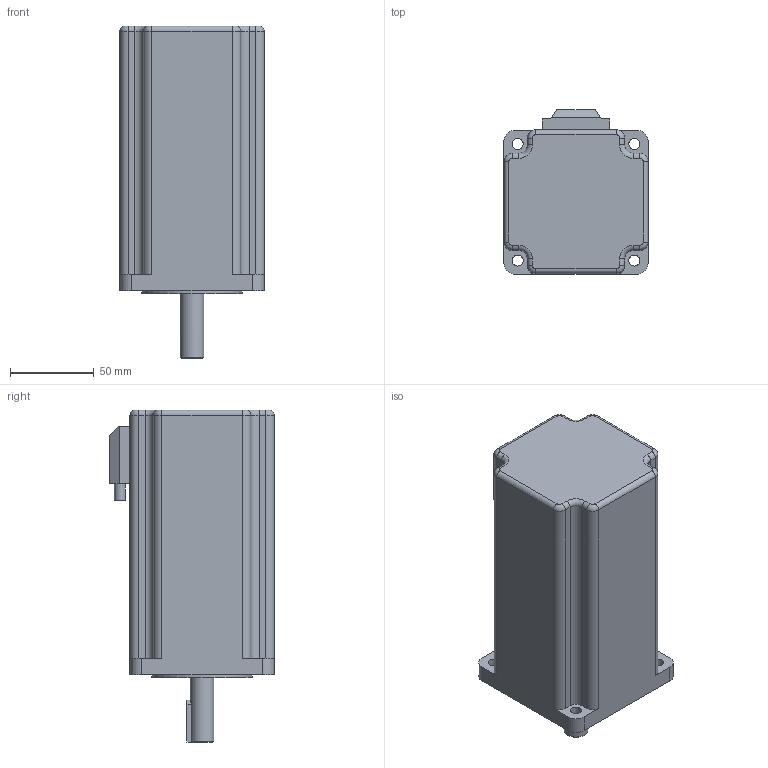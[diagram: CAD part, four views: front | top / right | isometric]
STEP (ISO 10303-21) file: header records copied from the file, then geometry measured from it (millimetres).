
FILE_DESCRIPTION(('STEP AP214'), '1');
FILE_NAME('Äâèãàòåëü øàãîâûé ñ ýíêîäåðîì CS-M234120', '', ('UNSPECIFIED'), ('UNSPECIFIED'), 'C3D Converter', 'C3D Toolkit', '');
FILE_SCHEMA(('AUTOMOTIVE_DESIGN { 1 0 10303 214 3 1 1}'));
Length unit declared in the file: millimetre
Bounding box: 86 x 98 x 198 mm (x, y, z)
Volume: 1071602.5 mm3; surface area: 69890.9 mm2
Topology: 2 solids, 2 shells, 94 faces, 229 edges, 144 vertices
Faces by surface type: plane 40, cylinder 39, torus 12, cone 3
Full cylindrical faces by diameter (mm): 4.134 x1, 6.5 x6, 14 x1, 60 x1
Entity records: 3610 total; most frequent: CARTESIAN_POINT 569, DIRECTION 496, ORIENTED_EDGE 434, EDGE_CURVE 217, AXIS2_PLACEMENT_3D 187, VERTEX_POINT 143, LINE 122, VECTOR 122
